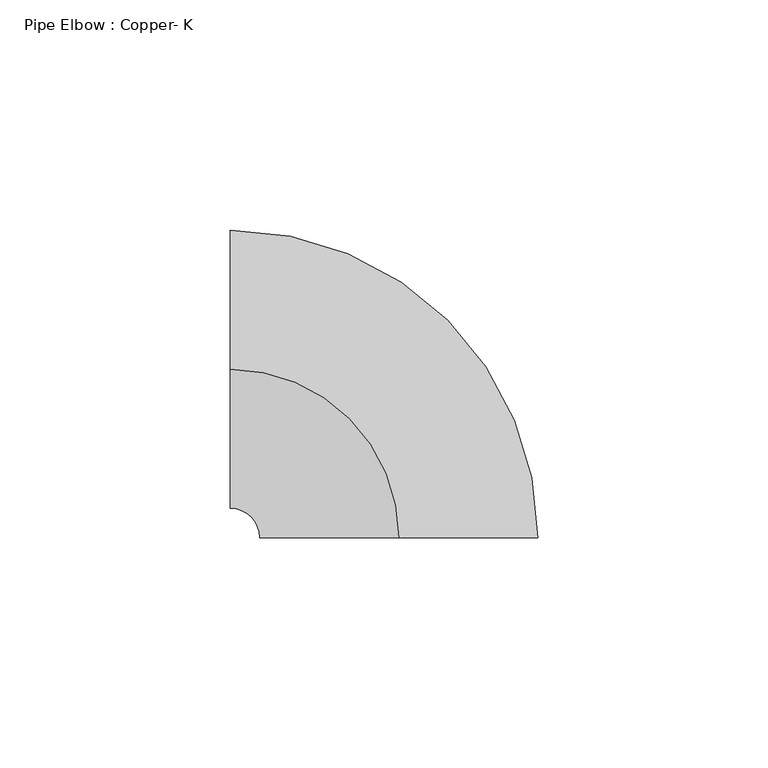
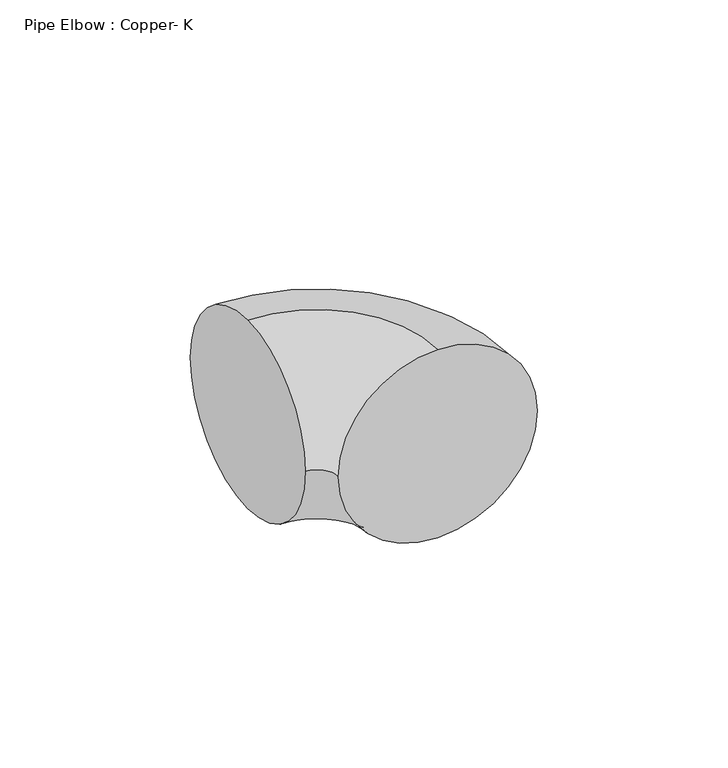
"""IFC4 building model written with IfcOpenShell, lengths in millimetres: pipe fitting geometry, Pipe Elbow : Copper- K."""

from ifc_helpers import new_model, si_unit, point, frame, origin, place, context, project, spatial, circle_curve, ellipse_curve, trimmed, source, transform, mapped, element, save
from ifc_brep_helpers import plane_surface, revolved_surface, advanced_brep


def pipe_elbow_copper_k_532a6920(model_context):
    return source(origin(), model_context, "Body", "AdvancedBrep", [
        advanced_brep(
        [(-36.5125, 0.0, 30.1625), (-36.5125, 30.1625, 0.0), (-36.5125, 0.0, -30.1625), (-36.5125, -30.1625, 0.0), (0.0, -36.5125, 30.1625), (-30.1625, -36.5125, 0.0), (0.0, -36.5125, -30.1625), (30.1625, -36.5125, 0.0)],
        [
            (0, 1, circle_curve(frame((-36.5125, 0.0, 0.0), z_axis=(-1.0, 0.0, 0.0), x_axis=(0.0, -1.0, 0.0)), 30.1625)),
            (1, 2, circle_curve(frame((-36.5125, 0.0, 0.0), z_axis=(-1.0, 0.0, 0.0), x_axis=(0.0, -1.0, 0.0)), 30.1625)),
            (2, 3, circle_curve(frame((-36.5125, 0.0, 0.0), z_axis=(-1.0, 0.0, 0.0), x_axis=(0.0, -1.0, 0.0)), 30.1625)),
            (3, 0, circle_curve(frame((-36.5125, 0.0, 0.0), z_axis=(-1.0, 0.0, 0.0), x_axis=(0.0, -1.0, 0.0)), 30.1625)),
            (4, 5, circle_curve(frame((0.0, -36.5125, 0.0), z_axis=(0.0, -1.0, 0.0), x_axis=(-1.0, 0.0, 0.0)), 30.1625)),
            (5, 6, circle_curve(frame((0.0, -36.5125, 0.0), z_axis=(0.0, -1.0, 0.0), x_axis=(-1.0, 0.0, 0.0)), 30.1625)),
            (6, 7, circle_curve(frame((0.0, -36.5125, 0.0), z_axis=(0.0, -1.0, 0.0), x_axis=(-1.0, 0.0, 0.0)), 30.1625)),
            (7, 4, circle_curve(frame((0.0, -36.5125, 0.0), z_axis=(0.0, -1.0, 0.0), x_axis=(-1.0, 0.0, 0.0)), 30.1625)),
            (4, 0, circle_curve(frame((-36.5125, -36.5125, 30.1625), z_axis=(0.0, 0.0, 1.0), x_axis=(0.0, 1.0, 0.0)), 36.5125)),
            (3, 5, circle_curve(frame((-36.5125, -36.5125, 0.0), z_axis=(0.0, 0.0, -1.0), x_axis=(0.0, 1.0, 0.0)), 6.35)),
            (2, 6, circle_curve(frame((-36.5125, -36.5125, -30.1625), z_axis=(0.0, 0.0, -1.0), x_axis=(0.0, 1.0, 0.0)), 36.5125)),
            (1, 7, circle_curve(frame((-36.5125, -36.5125, 0.0), z_axis=(0.0, 0.0, -1.0), x_axis=(0.0, 1.0, 0.0)), 66.675)),
        ],
        [
            plane_surface(frame((-36.5125, 0.0, 0.0), z_axis=(-1.0, 0.0, 0.0), x_axis=(0.0, 0.0, 1.0))),
            plane_surface(frame((0.0, -36.5125, 0.0), z_axis=(0.0, -1.0, 0.0), x_axis=(0.0, 0.0, 1.0))),
            revolved_surface(trimmed(ellipse_curve(frame((-36.5125, 0.0, 0.0), z_axis=(1.0, 0.0, 0.0), x_axis=(0.0, -1.0, 0.0)), 30.1625, 30.1625), [point((-36.5125, 0.0, 30.1625))], [point((-36.5125, -30.1625, 0.0))], True, "CARTESIAN"), (-36.5125, -36.5125, 0.0), (0.0, 0.0, 1.0)),
            revolved_surface(trimmed(ellipse_curve(frame((-36.5125, 0.0, 0.0), z_axis=(1.0, 0.0, 0.0), x_axis=(0.0, -1.0, 0.0)), 30.1625, 30.1625), [point((-36.5125, -30.1625, 0.0))], [point((-36.5125, 0.0, -30.1625))], True, "CARTESIAN"), (-36.5125, -36.5125, 0.0), (0.0, 0.0, 1.0)),
            revolved_surface(trimmed(ellipse_curve(frame((-36.5125, 0.0, 0.0), z_axis=(1.0, 0.0, 0.0), x_axis=(0.0, -1.0, 0.0)), 30.1625, 30.1625), [point((-36.5125, 0.0, -30.1625))], [point((-36.5125, 30.1625, 0.0))], True, "CARTESIAN"), (-36.5125, -36.5125, 0.0), (0.0, 0.0, 1.0)),
            revolved_surface(trimmed(ellipse_curve(frame((-36.5125, 0.0, 0.0), z_axis=(1.0, 0.0, 0.0), x_axis=(0.0, -1.0, 0.0)), 30.1625, 30.1625), [point((-36.5125, 30.1625, 0.0))], [point((-36.5125, 0.0, 30.1625))], True, "CARTESIAN"), (-36.5125, -36.5125, 0.0), (0.0, 0.0, 1.0)),
        ],
        [
            (0, [[1, 2, 3, 4]]),
            (1, [[5, 6, 7, 8]]),
            (2, [[-5, 9, -4, 10]]),
            (3, [[-6, -10, -3, 11]]),
            (4, [[-7, -11, -2, 12]]),
            (5, [[-8, -12, -1, -9]]),
        ],
    ),
        advanced_brep(
        [(-36.5125, 0.0, 30.1625), (-36.5125, 30.1625, 0.0), (-36.5125, 0.0, -30.1625), (-36.5125, -30.1625, 0.0), (0.0, -36.5125, 30.1625), (-30.1625, -36.5125, 0.0), (0.0, -36.5125, -30.1625), (30.1625, -36.5125, 0.0)],
        [
            (0, 1, circle_curve(frame((-36.5125, 0.0, 0.0), z_axis=(-1.0, 0.0, 0.0), x_axis=(0.0, -1.0, 0.0)), 30.1625)),
            (1, 2, circle_curve(frame((-36.5125, 0.0, 0.0), z_axis=(-1.0, 0.0, 0.0), x_axis=(0.0, -1.0, 0.0)), 30.1625)),
            (2, 3, circle_curve(frame((-36.5125, 0.0, 0.0), z_axis=(-1.0, 0.0, 0.0), x_axis=(0.0, -1.0, 0.0)), 30.1625)),
            (3, 0, circle_curve(frame((-36.5125, 0.0, 0.0), z_axis=(-1.0, 0.0, 0.0), x_axis=(0.0, -1.0, 0.0)), 30.1625)),
            (4, 5, circle_curve(frame((0.0, -36.5125, 0.0), z_axis=(0.0, -1.0, 0.0), x_axis=(-1.0, 0.0, 0.0)), 30.1625)),
            (5, 6, circle_curve(frame((0.0, -36.5125, 0.0), z_axis=(0.0, -1.0, 0.0), x_axis=(-1.0, 0.0, 0.0)), 30.1625)),
            (6, 7, circle_curve(frame((0.0, -36.5125, 0.0), z_axis=(0.0, -1.0, 0.0), x_axis=(-1.0, 0.0, 0.0)), 30.1625)),
            (7, 4, circle_curve(frame((0.0, -36.5125, 0.0), z_axis=(0.0, -1.0, 0.0), x_axis=(-1.0, 0.0, 0.0)), 30.1625)),
            (4, 0, circle_curve(frame((-36.5125, -36.5125, 30.1625), z_axis=(0.0, 0.0, 1.0), x_axis=(0.0, 1.0, 0.0)), 36.5125)),
            (3, 5, circle_curve(frame((-36.5125, -36.5125, 0.0), z_axis=(0.0, 0.0, -1.0), x_axis=(0.0, 1.0, 0.0)), 6.35)),
            (2, 6, circle_curve(frame((-36.5125, -36.5125, -30.1625), z_axis=(0.0, 0.0, -1.0), x_axis=(0.0, 1.0, 0.0)), 36.5125)),
            (1, 7, circle_curve(frame((-36.5125, -36.5125, 0.0), z_axis=(0.0, 0.0, -1.0), x_axis=(0.0, 1.0, 0.0)), 66.675)),
        ],
        [
            plane_surface(frame((-36.5125, 0.0, 0.0), z_axis=(-1.0, 0.0, 0.0), x_axis=(0.0, 0.0, 1.0))),
            plane_surface(frame((0.0, -36.5125, 0.0), z_axis=(0.0, -1.0, 0.0), x_axis=(0.0, 0.0, 1.0))),
            revolved_surface(trimmed(ellipse_curve(frame((-36.5125, 0.0, 0.0), z_axis=(1.0, 0.0, 0.0), x_axis=(0.0, -1.0, 0.0)), 30.1625, 30.1625), [point((-36.5125, 0.0, 30.1625))], [point((-36.5125, -30.1625, 0.0))], True, "CARTESIAN"), (-36.5125, -36.5125, 0.0), (0.0, 0.0, 1.0)),
            revolved_surface(trimmed(ellipse_curve(frame((-36.5125, 0.0, 0.0), z_axis=(1.0, 0.0, 0.0), x_axis=(0.0, -1.0, 0.0)), 30.1625, 30.1625), [point((-36.5125, -30.1625, 0.0))], [point((-36.5125, 0.0, -30.1625))], True, "CARTESIAN"), (-36.5125, -36.5125, 0.0), (0.0, 0.0, 1.0)),
            revolved_surface(trimmed(ellipse_curve(frame((-36.5125, 0.0, 0.0), z_axis=(1.0, 0.0, 0.0), x_axis=(0.0, -1.0, 0.0)), 30.1625, 30.1625), [point((-36.5125, 0.0, -30.1625))], [point((-36.5125, 30.1625, 0.0))], True, "CARTESIAN"), (-36.5125, -36.5125, 0.0), (0.0, 0.0, 1.0)),
            revolved_surface(trimmed(ellipse_curve(frame((-36.5125, 0.0, 0.0), z_axis=(1.0, 0.0, 0.0), x_axis=(0.0, -1.0, 0.0)), 30.1625, 30.1625), [point((-36.5125, 30.1625, 0.0))], [point((-36.5125, 0.0, 30.1625))], True, "CARTESIAN"), (-36.5125, -36.5125, 0.0), (0.0, 0.0, 1.0)),
        ],
        [
            (0, [[1, 2, 3, 4]]),
            (1, [[5, 6, 7, 8]]),
            (2, [[-5, 9, -4, 10]]),
            (3, [[-6, -10, -3, 11]]),
            (4, [[-7, -11, -2, 12]]),
            (5, [[-8, -12, -1, -9]]),
        ],
    ),
    ])


if __name__ == "__main__":
    model = new_model("IFC4")
    model_context = context("Model", 3, world=origin())
    ifc_project = project(units=[si_unit("LENGTHUNIT", "METRE", prefix="MILLI")], contexts=[model_context])
    site = spatial("IfcSite", under=ifc_project)
    building = spatial("IfcBuilding", under=site)
    placement = place(None, origin())
    pipe_elbow_copper_k_shape = pipe_elbow_copper_k_532a6920(model_context)
    element("IfcPipeFitting", 1, ObjectType="Pipe Elbow : Copper- K", at=placement, inside=building, context=model_context, shape_type="MappedRepresentation", body=[
        mapped(pipe_elbow_copper_k_shape, transform((0.0, 0.0, 0.0), x_axis=(1.0, 0.0, 0.0), y_axis=(0.0, 1.0, 0.0), z_axis=(0.0, 0.0, 1.0))),
    ])
    save(model, "model.ifc")
